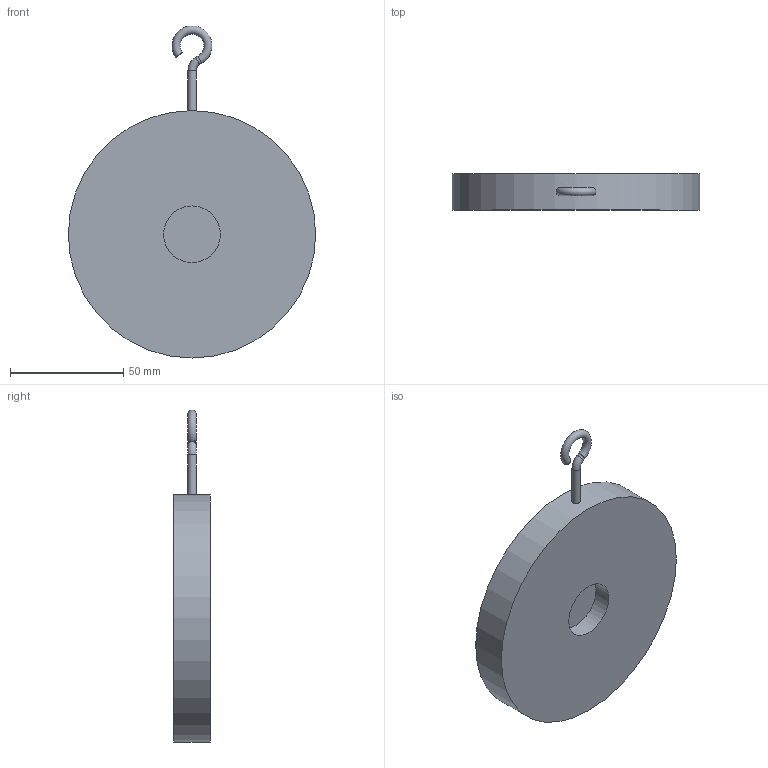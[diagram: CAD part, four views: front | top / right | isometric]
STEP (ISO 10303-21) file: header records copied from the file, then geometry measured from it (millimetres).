
FILE_DESCRIPTION(('STEP AP203'), '1');
FILE_NAME('孰囡囗 钺疣蝽 钿眍耱忸瘅囹 戾骠豚眦邂 008C.Y DN50', '', ('UNSPECIFIED'), ('UNSPECIFIED'), 'ASCON STEP Converter 1.6', 'ASCON Math Kernel', '');
FILE_SCHEMA(('CONFIG_CONTROL_DESIGN'));
Length unit declared in the file: millimetre
Bounding box: 109 x 16 x 146.27 mm (x, y, z)
Volume: 134012.9 mm3; surface area: 27206.6 mm2
Topology: 1 solids, 1 shells, 32 faces, 72 edges, 47 vertices
Faces by surface type: plane 17, cylinder 12, torus 2, cone 1
Full cylindrical faces by diameter (mm): 3.6 x2, 25 x1, 109 x1
Entity records: 1348 total; most frequent: CARTESIAN_POINT 349, DIRECTION 152, ORIENTED_EDGE 130, EDGE_CURVE 65, AXIS2_PLACEMENT_3D 59, VERTEX_POINT 47, EDGE_LOOP 44, LINE 34
